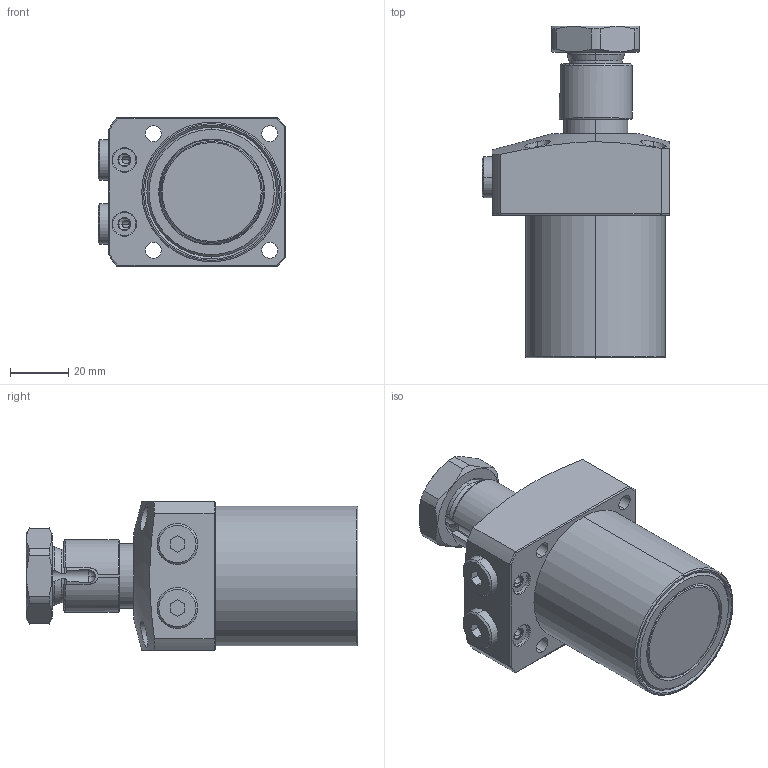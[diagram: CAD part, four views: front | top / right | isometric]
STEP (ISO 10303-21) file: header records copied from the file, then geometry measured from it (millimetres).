
FILE_DESCRIPTION (( 'STEP AP203' ), '1' );
FILE_NAME ('20360-CR.step', '2019-06-24T02:59:20', ( '微软用户' ), ( '微软中国' ), 'SwSTEP 2.0', 'SolidWorks 2014', '' );
FILE_SCHEMA (( 'CONFIG_CONTROL_DESIGN' ));
Length unit declared in the file: millimetre
Products named in the file (7): 20360-1^20360-CR; 20360-2^20360-CR; 20360-3^20360-CR; 20360-4^20360-CR; 20360-5^20360-CR; 20360-C-P-4^20360-CR; 20360-CR
Assembly tree (7 placements, depth 2):
  20360-CR
    20360-1^20360-CR
    20360-2^20360-CR
    20360-3^20360-CR
    20360-4^20360-CR
    20360-5^20360-CR
    20360-C-P-4^20360-CR  x2
Bounding box: 64.5 x 114 x 51 mm (x, y, z)
Volume: 188312.2 mm3; surface area: 35145.6 mm2
Topology: 7 solids, 7 shells, 228 faces, 537 edges, 339 vertices
Faces by surface type: plane 78, cylinder 77, cone 53, torus 18, sphere 2
Entity records: 7746 total; most frequent: CARTESIAN_POINT 1985, DIRECTION 1089, ORIENTED_EDGE 1014, EDGE_CURVE 507, AXIS2_PLACEMENT_3D 445, VERTEX_POINT 321, EDGE_LOOP 246, CIRCLE 220
